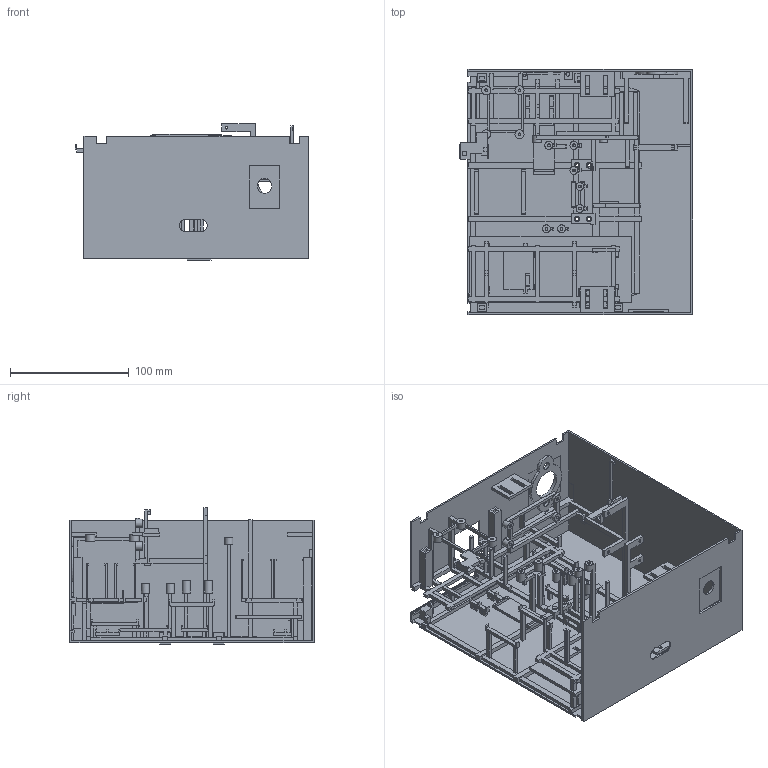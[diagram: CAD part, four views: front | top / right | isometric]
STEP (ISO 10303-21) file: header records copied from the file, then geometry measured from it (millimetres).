
FILE_DESCRIPTION(('Open CASCADE Model'),'2;1');
FILE_NAME('Open CASCADE Shape Model','2026-11-20T18:13:48',('Author'),( 'Open CASCADE'),'Open CASCADE STEP processor 8.0','Open CASCADE 8.0' ,'Unknown');
FILE_SCHEMA(('AUTOMOTIVE_DESIGN { 1 0 10303 214 1 1 1 1 }'));
Products named in the file (1): Open CASCADE STEP translator 8.0 2
Bounding box: 196 x 206 x 114.78 mm (x, y, z)
Volume: 248763.2 mm3; surface area: 276994.2 mm2
Topology: 1 solids, 1 shells, 1619 faces, 4812 edges, 3211 vertices
Faces by surface type: plane 1513, cylinder 69, cone 33, bspline 3, sphere 1
Full cylindrical faces by diameter (mm): 2.24 x4, 2.3 x8, 2.36 x7, 2.8 x4, 3.28 x4, 6.5 x2, 6.6 x7, 6.9 x4, 7.6 x4, 12.5 x1, 24 x1
Entity records: 113576 total; most frequent: CARTESIAN_POINT 24127, DIRECTION 14205, LINE 10062, VECTOR 10062, ORIENTED_EDGE 9624, PCURVE 9624, DEFINITIONAL_REPRESENTATION 9624, EDGE_CURVE 4812
